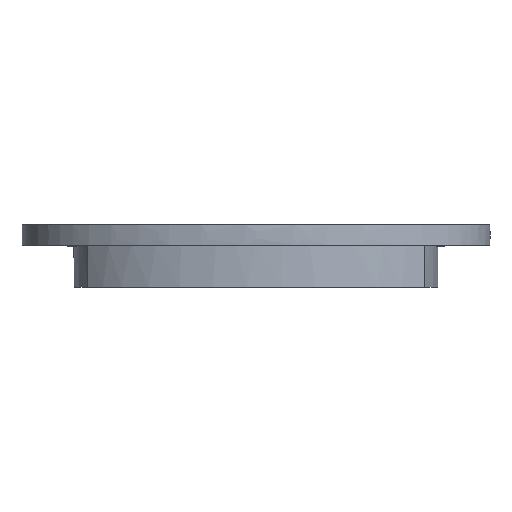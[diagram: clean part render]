
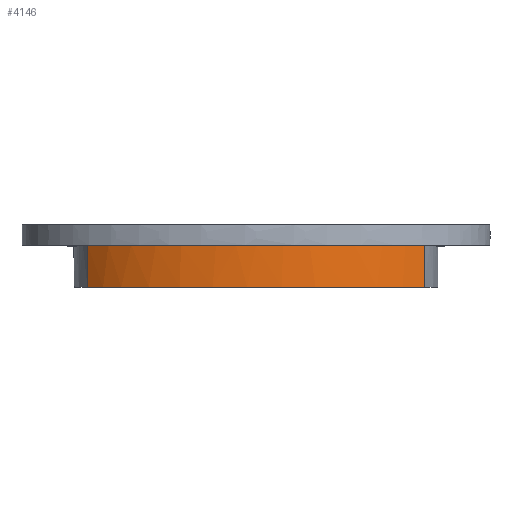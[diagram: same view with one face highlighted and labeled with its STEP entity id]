
A CAD part, front view. The second image highlights one B-rep face of the part: STEP entity #4146.
In plain terms, the highlighted free-form (B-spline) face has degree [1, 2] with [2, 5] control points.
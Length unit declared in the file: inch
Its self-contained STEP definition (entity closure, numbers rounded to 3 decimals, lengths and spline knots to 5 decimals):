
#15=(
BOUNDED_SURFACE()
B_SPLINE_SURFACE(1,2,((#7956,#7957,#7958,#7959,#7960),(#7961,#7962,#7963,
#7964,#7965)),.UNSPECIFIED.,.F.,.F.,.F.)
B_SPLINE_SURFACE_WITH_KNOTS((2,2),(3,2,3),(-0.008,0.19985),(-2.5539,
-1.5708,-0.58769),.UNSPECIFIED.)
GEOMETRIC_REPRESENTATION_ITEM()
RATIONAL_B_SPLINE_SURFACE(((1.,0.882,1.,0.882,1.),
(1.,0.882,1.,0.882,1.)))
REPRESENTATION_ITEM('')
SURFACE()
);
#18=ELLIPSE('',#4307,2.5,1.545);
#263=B_SPLINE_CURVE_WITH_KNOTS('',3,(#7967,#7968,#7969,#7970,#7971,#7972,
#7973,#7974),.UNSPECIFIED.,.F.,.F.,(4,2,2,4),(-4.73842,-4.08996,
-1.71235,0.),.UNSPECIFIED.);
#264=B_SPLINE_CURVE_WITH_KNOTS('',3,(#7976,#7977,#7978,#7979,#7980,#7981,
#7982,#7983),.UNSPECIFIED.,.F.,.F.,(4,2,2,4),(-9.0529,-7.94438,
-6.73045,-4.73842),.UNSPECIFIED.);
#769=LINE('',#7954,#1068);
#771=LINE('',#7984,#1070);
#1068=VECTOR('',#4937,0.3937);
#1070=VECTOR('',#4939,0.3937);
#1282=FACE_OUTER_BOUND('',#1565,.T.);
#1565=EDGE_LOOP('',(#3690,#3691,#3692,#3693,#3694));
#1979=VERTEX_POINT('',#7546);
#1980=VERTEX_POINT('',#7548);
#2040=VERTEX_POINT('',#7936);
#2042=VERTEX_POINT('',#7966);
#2043=VERTEX_POINT('',#7975);
#2508=EDGE_CURVE('',#1979,#1980,#18,.T.);
#2585=EDGE_CURVE('',#2040,#1979,#769,.T.);
#2587=EDGE_CURVE('',#2042,#2040,#263,.T.);
#2588=EDGE_CURVE('',#2043,#2042,#264,.T.);
#2589=EDGE_CURVE('',#1980,#2043,#771,.T.);
#3690=ORIENTED_EDGE('',*,*,#2587,.F.);
#3691=ORIENTED_EDGE('',*,*,#2588,.F.);
#3692=ORIENTED_EDGE('',*,*,#2589,.F.);
#3693=ORIENTED_EDGE('',*,*,#2508,.F.);
#3694=ORIENTED_EDGE('',*,*,#2585,.F.);
#4146=ADVANCED_FACE('',(#1282),#15,.F.);
#4307=AXIS2_PLACEMENT_3D('',#7549,#4812,#4813);
#4812=DIRECTION('center_axis',(0.,0.,-1.));
#4813=DIRECTION('ref_axis',(1.,0.,0.));
#4937=DIRECTION('',(0.,0.,-1.));
#4939=DIRECTION('',(0.,0.,1.));
#7546=CARTESIAN_POINT('',(2.08056,-0.85661,-0.02));
#7548=CARTESIAN_POINT('',(-2.08056,-0.85661,-0.02));
#7549=CARTESIAN_POINT('Origin',(0.,0.,-0.02));
#7936=CARTESIAN_POINT('',(2.08056,-0.85661,0.49963));
#7954=CARTESIAN_POINT('',(2.08056,-0.85661,0.));
#7956=CARTESIAN_POINT('Ctrl Pts',(-2.08056,-0.85661,
-0.02));
#7957=CARTESIAN_POINT('Ctrl Pts',(-1.33846,-1.545,-0.02));
#7958=CARTESIAN_POINT('Ctrl Pts',(0.,-1.545,-0.02));
#7959=CARTESIAN_POINT('Ctrl Pts',(1.33846,-1.545,-0.02));
#7960=CARTESIAN_POINT('Ctrl Pts',(2.08056,-0.85661,-0.02));
#7961=CARTESIAN_POINT('Ctrl Pts',(-2.08056,-0.85661,
0.49963));
#7962=CARTESIAN_POINT('Ctrl Pts',(-1.33846,-1.545,0.49963));
#7963=CARTESIAN_POINT('Ctrl Pts',(0.,-1.545,0.49963));
#7964=CARTESIAN_POINT('Ctrl Pts',(1.33846,-1.545,0.49963));
#7965=CARTESIAN_POINT('Ctrl Pts',(2.08056,-0.85661,0.49963));
#7966=CARTESIAN_POINT('',(0.,-1.545,0.49646));
#7967=CARTESIAN_POINT('Ctrl Pts',(0.,-1.545,0.49646));
#7968=CARTESIAN_POINT('Ctrl Pts',(0.11304,-1.545,0.49646));
#7969=CARTESIAN_POINT('Ctrl Pts',(0.22574,-1.54026,0.49652));
#7970=CARTESIAN_POINT('Ctrl Pts',(0.74625,-1.49646,0.49697));
#7971=CARTESIAN_POINT('Ctrl Pts',(1.1342,-1.40025,0.49791));
#7972=CARTESIAN_POINT('Ctrl Pts',(1.70856,-1.14273,0.49908));
#7973=CARTESIAN_POINT('Ctrl Pts',(1.91581,-1.00944,0.49943));
#7974=CARTESIAN_POINT('Ctrl Pts',(2.08056,-0.85661,0.49963));
#7975=CARTESIAN_POINT('',(-2.08056,-0.85661,0.49963));
#7976=CARTESIAN_POINT('Ctrl Pts',(-2.08056,-0.85661,
0.49963));
#7977=CARTESIAN_POINT('Ctrl Pts',(-1.94146,-0.98564,
0.49946));
#7978=CARTESIAN_POINT('Ctrl Pts',(-1.78018,-1.09329,0.4992));
#7979=CARTESIAN_POINT('Ctrl Pts',(-1.42676,-1.27744,0.49851));
#7980=CARTESIAN_POINT('Ctrl Pts',(-1.22862,-1.35244,0.49807));
#7981=CARTESIAN_POINT('Ctrl Pts',(-0.69769,-1.50038,0.49701));
#7982=CARTESIAN_POINT('Ctrl Pts',(-0.34725,-1.545,0.49646));
#7983=CARTESIAN_POINT('Ctrl Pts',(0.,-1.545,0.49646));
#7984=CARTESIAN_POINT('',(-2.08056,-0.85661,0.));
